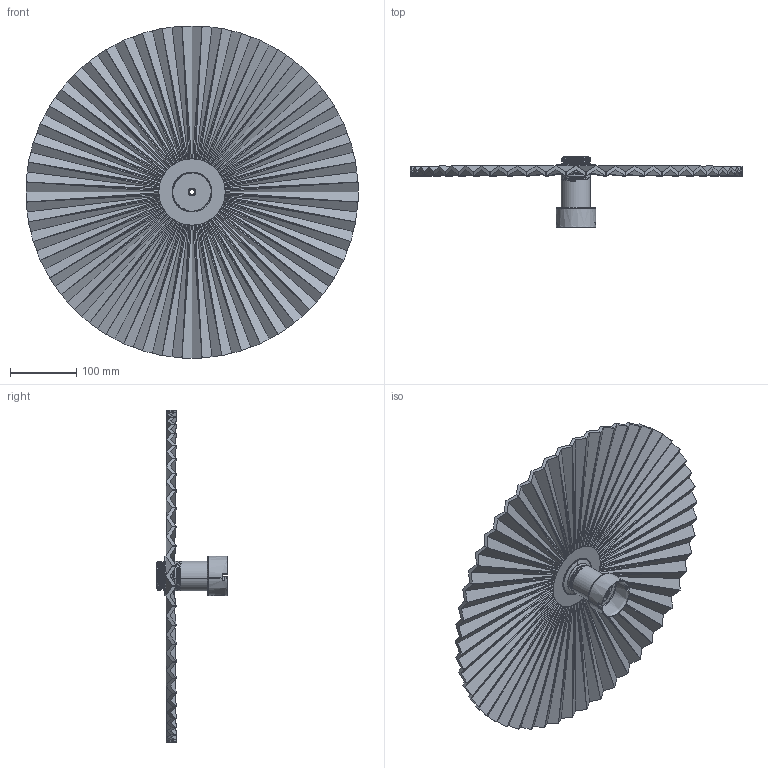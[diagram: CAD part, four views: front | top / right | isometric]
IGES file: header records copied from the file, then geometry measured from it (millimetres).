
Start section: SolidWorks IGES file using analytic representation for surfaces
Global section: file name: C:\Users\Agus\Desktop\incorporar\A1132-50\E27\A1132-50-E27.IGS; native system: SolidWorks 2018; preprocessor: SolidWorks 2018; author: Agus; date: 190301.100758; units: millimetre
Bounding box: 500 x 106.45 x 500 mm (x, y, z)
Surface area: 558591.5 mm2 (no closed solid volume)
Topology: 0 solids, 0 shells, 998 faces, 8992 edges, 8940 vertices
Faces by surface type: bspline 851, revolution 147
